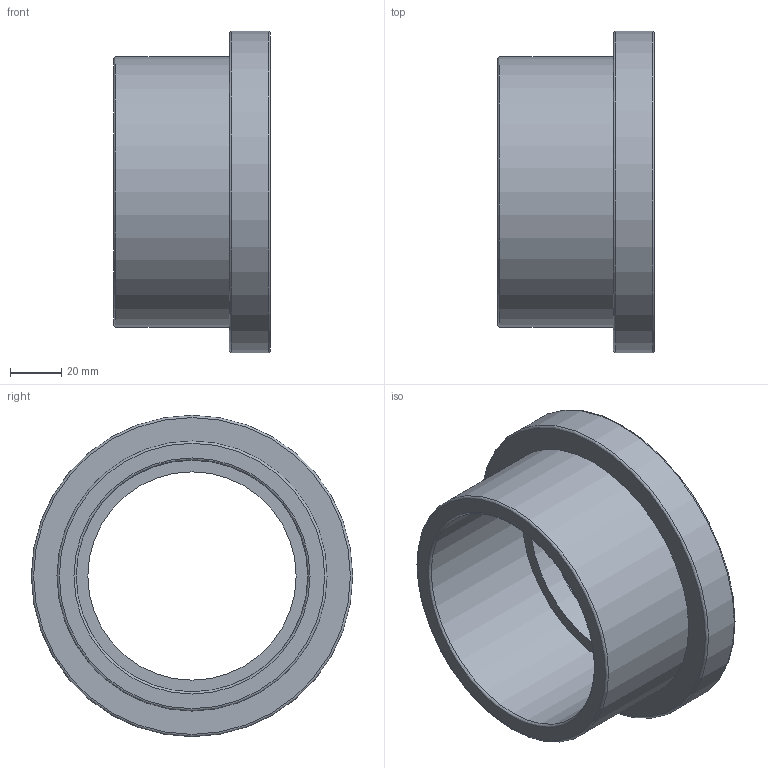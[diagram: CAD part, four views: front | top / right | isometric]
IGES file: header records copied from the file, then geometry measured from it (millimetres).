
Global section: file name: 055000090.ipt; native system: Autodesk Inventor 2015; preprocessor: unknown; author: KIM; date: 20171207.165713; units: millimetre
Bounding box: 61 x 125 x 125 mm (x, y, z)
Volume: 199489.1 mm3; surface area: 54297.3 mm2
Topology: 1 solids, 1 shells, 21 faces, 60 edges, 45 vertices
Faces by surface type: revolution 12, plane 6, cylinder 3
Full cylindrical faces by diameter (mm): 96.4 x1, 105 x1, 125 x1
